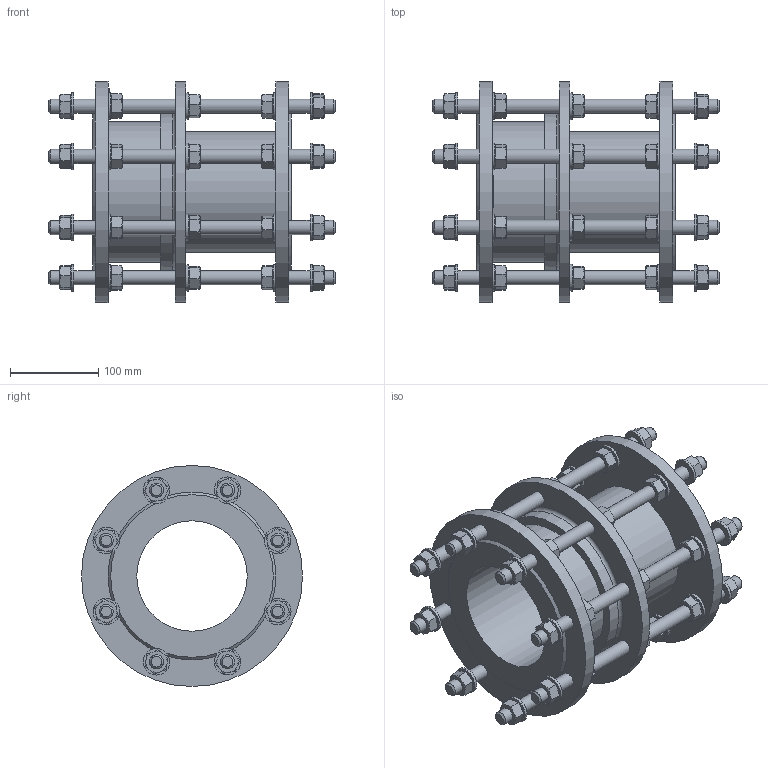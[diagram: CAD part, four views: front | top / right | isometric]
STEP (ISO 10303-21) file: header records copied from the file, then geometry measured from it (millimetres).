
FILE_DESCRIPTION (( 'STEP AP203' ), '1' );
FILE_NAME ('O_265_910_DN125_1XXXXX00_L=225_REV01.step', '2024-10-11T08:17:07', ( '' ), ( '' ), 'SwSTEP 2.0', 'SolidWorks 2022', '' );
FILE_SCHEMA (( 'CONFIG_CONTROL_DESIGN' ));
Length unit declared in the file: millimetre
Products named in the file (1): O_265_910_DN125_1XXXXX00_L=225_REV01
Bounding box: 325 x 250 x 250 mm (x, y, z)
Volume: 3194533.6 mm3; surface area: 552423 mm2
Topology: 1 solids, 1 shells, 1036 faces, 2265 edges, 1354 vertices
Faces by surface type: plane 640, cone 259, cylinder 136, torus 1
Full cylindrical faces by diameter (mm): 16 x48, 24 x40, 30 x40, 125 x1, 137 x1, 159 x1, 250 x3
Entity records: 28514 total; most frequent: CARTESIAN_POINT 7244, DIRECTION 4371, ORIENTED_EDGE 4084, EDGE_CURVE 2042, AXIS2_PLACEMENT_3D 1772, EDGE_LOOP 1347, VERTEX_POINT 1285, FACE_OUTER_BOUND 1171
